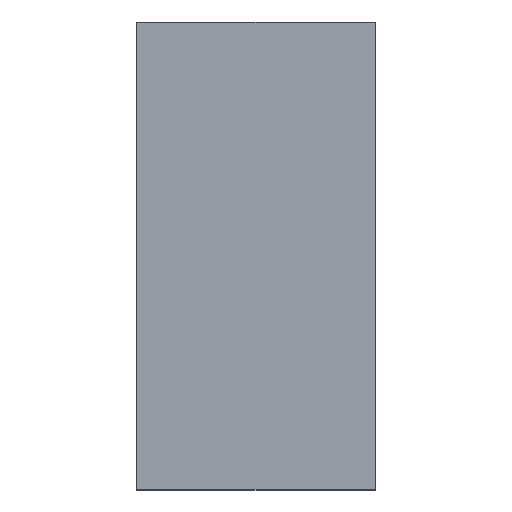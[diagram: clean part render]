
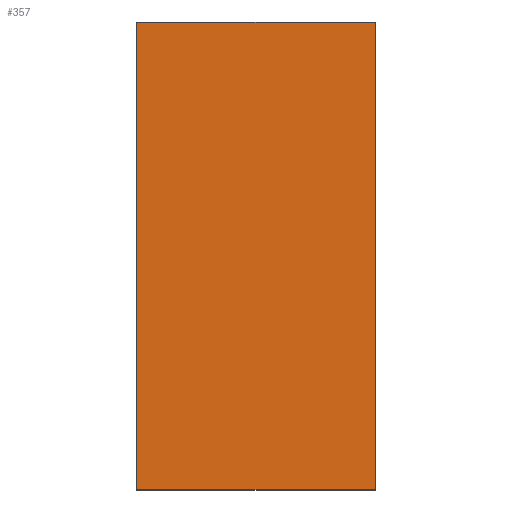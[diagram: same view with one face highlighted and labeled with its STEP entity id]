
A CAD part, top view. The second image highlights one B-rep face of the part: STEP entity #357.
In plain terms, the highlighted planar face has unit normal (0, 0, 1).
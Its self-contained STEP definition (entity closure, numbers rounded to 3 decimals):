
#43 = VERTEX_POINT('',#44);
#44 = CARTESIAN_POINT('',(-2.6,2.6,10.7));
#51 = PLANE('',#52);
#52 = AXIS2_PLACEMENT_3D('',#53,#54,#55);
#53 = CARTESIAN_POINT('',(-2.6,2.6,0.));
#54 = DIRECTION('',(0.,1.,0.));
#55 = DIRECTION('',(1.,0.,0.));
#63 = PLANE('',#64);
#64 = AXIS2_PLACEMENT_3D('',#65,#66,#67);
#65 = CARTESIAN_POINT('',(-2.6,-7.6,0.));
#66 = DIRECTION('',(-1.,0.,0.));
#67 = DIRECTION('',(0.,1.,0.));
#75 = EDGE_CURVE('',#43,#76,#78,.T.);
#76 = VERTEX_POINT('',#77);
#77 = CARTESIAN_POINT('',(2.6,2.6,10.7));
#78 = SURFACE_CURVE('',#79,(#83,#90),.PCURVE_S1.);
#79 = LINE('',#80,#81);
#80 = CARTESIAN_POINT('',(-2.6,2.6,10.7));
#81 = VECTOR('',#82,1.);
#82 = DIRECTION('',(1.,0.,0.));
#83 = PCURVE('',#51,#84);
#84 = DEFINITIONAL_REPRESENTATION('',(#85),#89);
#85 = LINE('',#86,#87);
#86 = CARTESIAN_POINT('',(0.,-10.7));
#87 = VECTOR('',#88,1.);
#88 = DIRECTION('',(1.,0.));
#89 = ( GEOMETRIC_REPRESENTATION_CONTEXT(2) 
PARAMETRIC_REPRESENTATION_CONTEXT() REPRESENTATION_CONTEXT('2D SPACE',''
  ) );
#90 = PCURVE('',#91,#96);
#91 = PLANE('',#92);
#92 = AXIS2_PLACEMENT_3D('',#93,#94,#95);
#93 = CARTESIAN_POINT('',(0.,-2.5,10.7));
#94 = DIRECTION('',(0.,0.,-1.));
#95 = DIRECTION('',(-1.,0.,0.));
#96 = DEFINITIONAL_REPRESENTATION('',(#97),#101);
#97 = LINE('',#98,#99);
#98 = CARTESIAN_POINT('',(2.6,5.1));
#99 = VECTOR('',#100,1.);
#100 = DIRECTION('',(-1.,0.));
#101 = ( GEOMETRIC_REPRESENTATION_CONTEXT(2) 
PARAMETRIC_REPRESENTATION_CONTEXT() REPRESENTATION_CONTEXT('2D SPACE',''
  ) );
#119 = PLANE('',#120);
#120 = AXIS2_PLACEMENT_3D('',#121,#122,#123);
#121 = CARTESIAN_POINT('',(2.6,2.6,0.));
#122 = DIRECTION('',(1.,0.,-0.));
#123 = DIRECTION('',(0.,-1.,0.));
#161 = EDGE_CURVE('',#76,#162,#164,.T.);
#162 = VERTEX_POINT('',#163);
#163 = CARTESIAN_POINT('',(2.6,-7.6,10.7));
#164 = SURFACE_CURVE('',#165,(#169,#176),.PCURVE_S1.);
#165 = LINE('',#166,#167);
#166 = CARTESIAN_POINT('',(2.6,2.6,10.7));
#167 = VECTOR('',#168,1.);
#168 = DIRECTION('',(0.,-1.,0.));
#169 = PCURVE('',#119,#170);
#170 = DEFINITIONAL_REPRESENTATION('',(#171),#175);
#171 = LINE('',#172,#173);
#172 = CARTESIAN_POINT('',(0.,-10.7));
#173 = VECTOR('',#174,1.);
#174 = DIRECTION('',(1.,0.));
#175 = ( GEOMETRIC_REPRESENTATION_CONTEXT(2) 
PARAMETRIC_REPRESENTATION_CONTEXT() REPRESENTATION_CONTEXT('2D SPACE',''
  ) );
#176 = PCURVE('',#91,#177);
#177 = DEFINITIONAL_REPRESENTATION('',(#178),#182);
#178 = LINE('',#179,#180);
#179 = CARTESIAN_POINT('',(-2.6,5.1));
#180 = VECTOR('',#181,1.);
#181 = DIRECTION('',(0.,-1.));
#182 = ( GEOMETRIC_REPRESENTATION_CONTEXT(2) 
PARAMETRIC_REPRESENTATION_CONTEXT() REPRESENTATION_CONTEXT('2D SPACE',''
  ) );
#200 = PLANE('',#201);
#201 = AXIS2_PLACEMENT_3D('',#202,#203,#204);
#202 = CARTESIAN_POINT('',(2.6,-7.6,0.));
#203 = DIRECTION('',(0.,-1.,0.));
#204 = DIRECTION('',(-1.,0.,0.));
#237 = EDGE_CURVE('',#162,#238,#240,.T.);
#238 = VERTEX_POINT('',#239);
#239 = CARTESIAN_POINT('',(-2.6,-7.6,10.7));
#240 = SURFACE_CURVE('',#241,(#245,#252),.PCURVE_S1.);
#241 = LINE('',#242,#243);
#242 = CARTESIAN_POINT('',(2.6,-7.6,10.7));
#243 = VECTOR('',#244,1.);
#244 = DIRECTION('',(-1.,0.,0.));
#245 = PCURVE('',#200,#246);
#246 = DEFINITIONAL_REPRESENTATION('',(#247),#251);
#247 = LINE('',#248,#249);
#248 = CARTESIAN_POINT('',(0.,-10.7));
#249 = VECTOR('',#250,1.);
#250 = DIRECTION('',(1.,0.));
#251 = ( GEOMETRIC_REPRESENTATION_CONTEXT(2) 
PARAMETRIC_REPRESENTATION_CONTEXT() REPRESENTATION_CONTEXT('2D SPACE',''
  ) );
#252 = PCURVE('',#91,#253);
#253 = DEFINITIONAL_REPRESENTATION('',(#254),#258);
#254 = LINE('',#255,#256);
#255 = CARTESIAN_POINT('',(-2.6,-5.1));
#256 = VECTOR('',#257,1.);
#257 = DIRECTION('',(1.,0.));
#258 = ( GEOMETRIC_REPRESENTATION_CONTEXT(2) 
PARAMETRIC_REPRESENTATION_CONTEXT() REPRESENTATION_CONTEXT('2D SPACE',''
  ) );
#308 = EDGE_CURVE('',#238,#43,#309,.T.);
#309 = SURFACE_CURVE('',#310,(#314,#321),.PCURVE_S1.);
#310 = LINE('',#311,#312);
#311 = CARTESIAN_POINT('',(-2.6,-7.6,10.7));
#312 = VECTOR('',#313,1.);
#313 = DIRECTION('',(0.,1.,0.));
#314 = PCURVE('',#63,#315);
#315 = DEFINITIONAL_REPRESENTATION('',(#316),#320);
#316 = LINE('',#317,#318);
#317 = CARTESIAN_POINT('',(0.,-10.7));
#318 = VECTOR('',#319,1.);
#319 = DIRECTION('',(1.,0.));
#320 = ( GEOMETRIC_REPRESENTATION_CONTEXT(2) 
PARAMETRIC_REPRESENTATION_CONTEXT() REPRESENTATION_CONTEXT('2D SPACE',''
  ) );
#321 = PCURVE('',#91,#322);
#322 = DEFINITIONAL_REPRESENTATION('',(#323),#327);
#323 = LINE('',#324,#325);
#324 = CARTESIAN_POINT('',(2.6,-5.1));
#325 = VECTOR('',#326,1.);
#326 = DIRECTION('',(0.,1.));
#327 = ( GEOMETRIC_REPRESENTATION_CONTEXT(2) 
PARAMETRIC_REPRESENTATION_CONTEXT() REPRESENTATION_CONTEXT('2D SPACE',''
  ) );
#357 = ADVANCED_FACE('',(#358),#91,.F.);
#358 = FACE_BOUND('',#359,.F.);
#359 = EDGE_LOOP('',(#360,#361,#362,#363));
#360 = ORIENTED_EDGE('',*,*,#75,.T.);
#361 = ORIENTED_EDGE('',*,*,#161,.T.);
#362 = ORIENTED_EDGE('',*,*,#237,.T.);
#363 = ORIENTED_EDGE('',*,*,#308,.T.);
